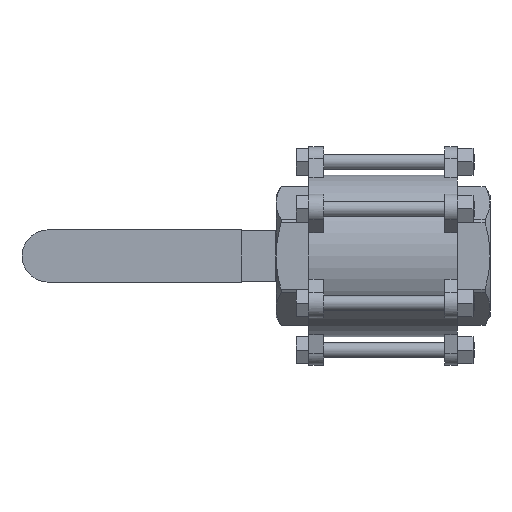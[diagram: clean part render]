
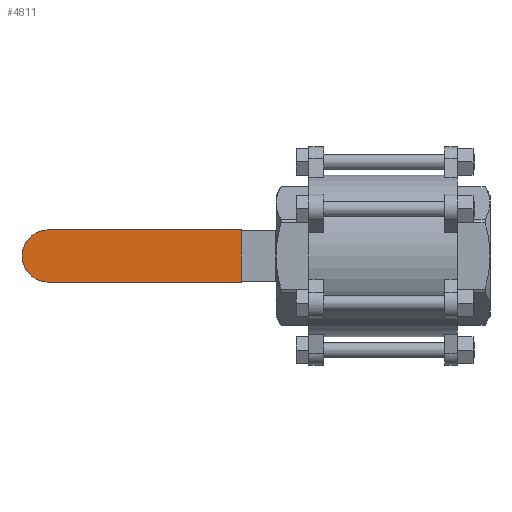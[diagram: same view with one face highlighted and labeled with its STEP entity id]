
A CAD part, front view. The second image highlights one B-rep face of the part: STEP entity #4811.
In plain terms, the highlighted planar face has unit normal (0, -1, 0).
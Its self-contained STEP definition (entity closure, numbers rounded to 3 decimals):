
#405 = CARTESIAN_POINT ( 'NONE',  ( -236.5, 134.5, -18.5 ) ) ;
#1313 = CARTESIAN_POINT ( 'NONE',  ( -236.5, 134.5, 0. ) ) ;
#1473 = CARTESIAN_POINT ( 'NONE',  ( -255., 134.5, -18.5 ) ) ;
#1598 = DIRECTION ( 'NONE',  ( 0., 0., 1. ) ) ;
#1663 = VERTEX_POINT ( 'NONE', #3332 ) ;
#2172 = FACE_OUTER_BOUND ( 'NONE', #7838, .T. ) ;
#2275 = DIRECTION ( 'NONE',  ( 0., 0., 1. ) ) ;
#2369 = EDGE_CURVE ( 'NONE', #3623, #1663, #6784, .T. ) ;
#3332 = CARTESIAN_POINT ( 'NONE',  ( -100., 134.5, -18.5 ) ) ;
#3623 = VERTEX_POINT ( 'NONE', #4819 ) ;
#3885 = AXIS2_PLACEMENT_3D ( 'NONE', #6501, #7490, #1598 ) ;
#4446 = VERTEX_POINT ( 'NONE', #405 ) ;
#4497 = CARTESIAN_POINT ( 'NONE',  ( -255., 134.5, 18.5 ) ) ;
#4811 = ADVANCED_FACE ( 'NONE', ( #2172 ), #12387, .F. ) ;
#4819 = CARTESIAN_POINT ( 'NONE',  ( -100., 134.5, 18.5 ) ) ;
#5357 = LINE ( 'NONE', #1473, #5658 ) ;
#5531 = ORIENTED_EDGE ( 'NONE', *, *, #6698, .T. ) ;
#5554 = DIRECTION ( 'NONE',  ( 0., 0., -1. ) ) ;
#5639 = LINE ( 'NONE', #4497, #12569 ) ;
#5658 = VECTOR ( 'NONE', #7361, 1000. ) ;
#6501 = CARTESIAN_POINT ( 'NONE',  ( -255., 134.5, 174.116 ) ) ;
#6538 = CARTESIAN_POINT ( 'NONE',  ( -100., 134.5, 174.116 ) ) ;
#6558 = ORIENTED_EDGE ( 'NONE', *, *, #8723, .F. ) ;
#6698 = EDGE_CURVE ( 'NONE', #4446, #1663, #5357, .T. ) ;
#6784 = LINE ( 'NONE', #6538, #11703 ) ;
#7361 = DIRECTION ( 'NONE',  ( 1., 0., 0. ) ) ;
#7490 = DIRECTION ( 'NONE',  ( 0., 1., 0. ) ) ;
#7838 = EDGE_LOOP ( 'NONE', ( #9052, #6558, #5531, #7915 ) ) ;
#7915 = ORIENTED_EDGE ( 'NONE', *, *, #2369, .F. ) ;
#8177 = DIRECTION ( 'NONE',  ( 0., 1., 0. ) ) ;
#8409 = CARTESIAN_POINT ( 'NONE',  ( -236.5, 134.5, 18.5 ) ) ;
#8723 = EDGE_CURVE ( 'NONE', #4446, #8923, #11422, .T. ) ;
#8838 = AXIS2_PLACEMENT_3D ( 'NONE', #1313, #8177, #2275 ) ;
#8923 = VERTEX_POINT ( 'NONE', #8409 ) ;
#9052 = ORIENTED_EDGE ( 'NONE', *, *, #11462, .T. ) ;
#11410 = DIRECTION ( 'NONE',  ( -1., 0., 0. ) ) ;
#11422 = CIRCLE ( 'NONE', #8838, 18.5 ) ;
#11462 = EDGE_CURVE ( 'NONE', #3623, #8923, #5639, .T. ) ;
#11703 = VECTOR ( 'NONE', #5554, 1000. ) ;
#12387 = PLANE ( 'NONE',  #3885 ) ;
#12569 = VECTOR ( 'NONE', #11410, 1000. ) ;
